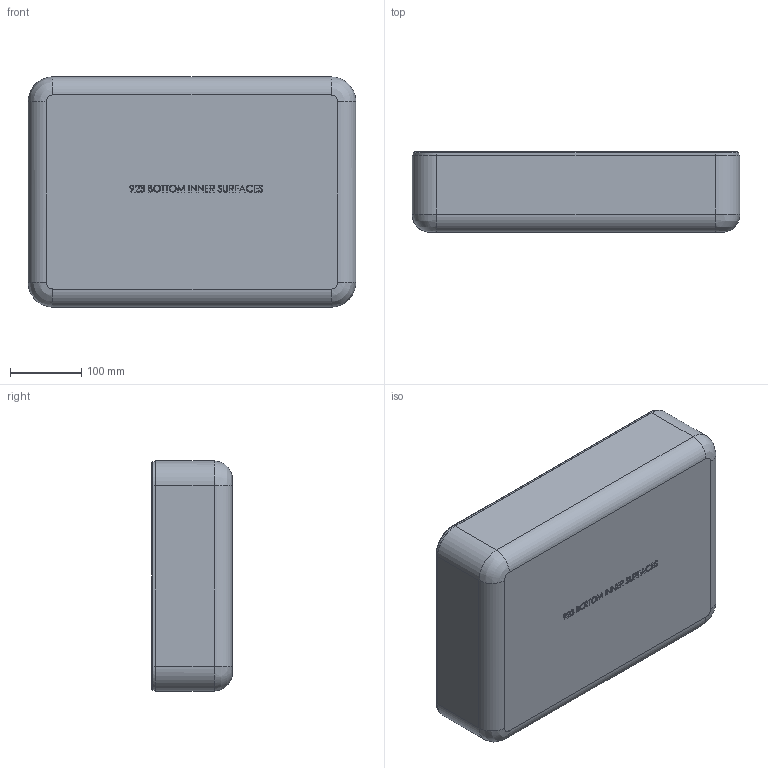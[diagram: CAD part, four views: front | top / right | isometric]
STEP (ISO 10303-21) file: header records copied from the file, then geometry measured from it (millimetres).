
FILE_DESCRIPTION (( 'STEP AP203' ), '1' );
FILE_NAME ('923_Bottom_Inner_Surfaces.STEP', '2016-11-18T19:21:03', ( '' ), ( '' ), 'SwSTEP 2.0', 'SolidWorks 2016', '' );
FILE_SCHEMA (( 'CONFIG_CONTROL_DESIGN' ));
Products named in the file (1): 923_Bottom_Inner_Surfaces
Bounding box: 461.05 x 113.41 x 323.89 mm (x, y, z)
Volume: 4808791.2 mm3; surface area: 579073.7 mm2
Topology: 1 solids, 1 shells, 1438 faces, 3570 edges, 2128 vertices
Faces by surface type: bspline 712, plane 316, cylinder 234, torus 120, cone 48, sphere 8
Entity records: 95693 total; most frequent: CARTESIAN_POINT 67373, ORIENTED_EDGE 6996, DIRECTION 4297, EDGE_CURVE 3498, VERTEX_POINT 2120, AXIS2_PLACEMENT_3D 1589, EDGE_LOOP 1496, FACE_OUTER_BOUND 1438
